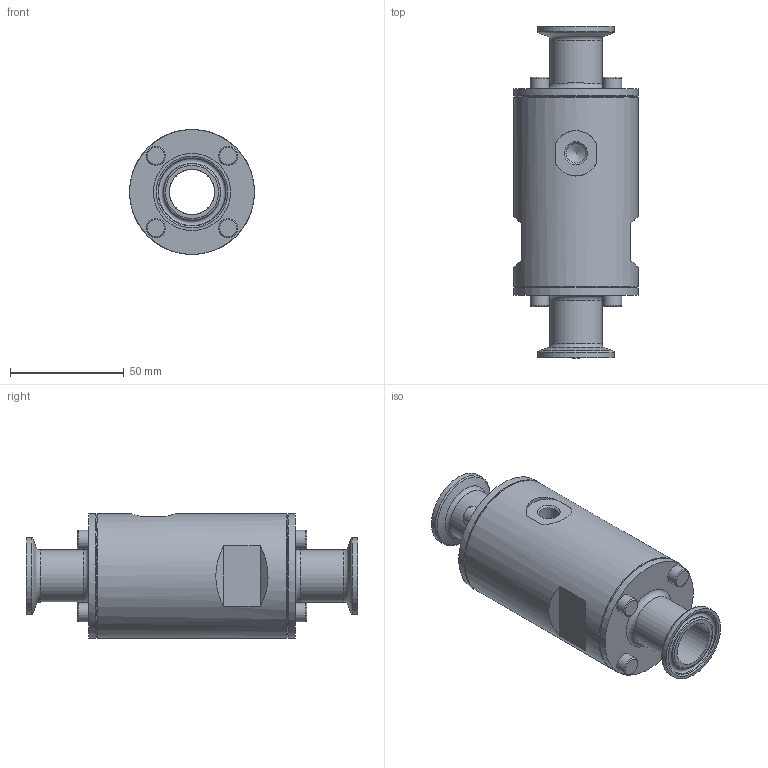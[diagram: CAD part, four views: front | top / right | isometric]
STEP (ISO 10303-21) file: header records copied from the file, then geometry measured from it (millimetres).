
FILE_DESCRIPTION(/* description */ (''),/* implementation_level */ '2;1');
FILE_NAME(/* name */ '88020.stp',/* time_stamp */ '2019-06-10T07:09:54+02:00',/* author */ (''),/* organization */ (''),/* preprocessor_version */ 'ST-DEVELOPER v16.7',/* originating_system */ 'SIEMENS PLM Software NX 12.0',/* authorisation */ '');
FILE_SCHEMA (('AUTOMOTIVE_DESIGN { 1 0 10303 214 3 1 1 1 }'));
Length unit declared in the file: millimetre
Products named in the file (1): Memd21BC7DCDv7zu
Bounding box: 55 x 146.2 x 55 mm (x, y, z)
Volume: 192476.6 mm3; surface area: 45247.9 mm2
Topology: 1 solids, 1 shells, 140 faces, 345 edges, 225 vertices
Faces by surface type: plane 49, cylinder 45, torus 30, cone 16
Full cylindrical faces by diameter (mm): 8.5 x8, 8.611 x1, 20 x3, 23 x2, 34 x2, 55 x3
Entity records: 3660 total; most frequent: DIRECTION 690, CARTESIAN_POINT 672, ORIENTED_EDGE 486, AXIS2_PLACEMENT_3D 324, EDGE_CURVE 243, EDGE_LOOP 226, VERTEX_POINT 190, CIRCLE 179
